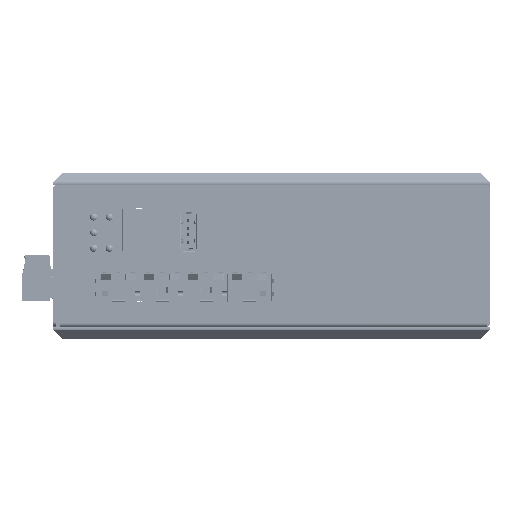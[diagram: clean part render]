
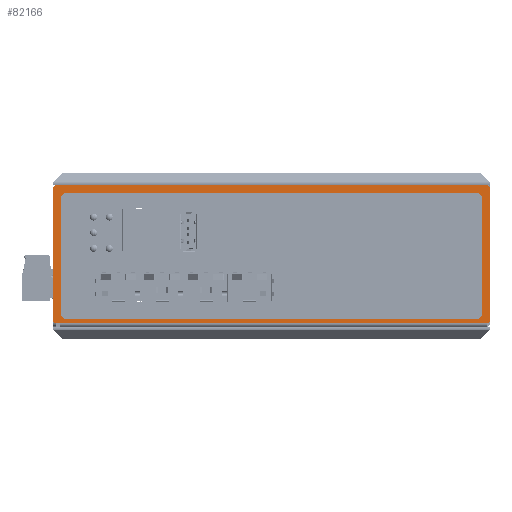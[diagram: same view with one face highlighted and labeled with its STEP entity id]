
A CAD part, front view. The second image highlights one B-rep face of the part: STEP entity #82166.
In plain terms, the highlighted planar face has unit normal (0, -1, 0).
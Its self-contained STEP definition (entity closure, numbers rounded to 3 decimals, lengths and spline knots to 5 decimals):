
#1715=LINE('',#118203,#9998);
#1716=LINE('',#118209,#9999);
#1717=LINE('',#118213,#10000);
#1718=LINE('',#118217,#10001);
#1719=LINE('',#118219,#10002);
#1720=LINE('',#118221,#10003);
#1721=LINE('',#118225,#10004);
#1722=LINE('',#118229,#10005);
#1723=LINE('',#118233,#10006);
#1724=LINE('',#118237,#10007);
#9998=VECTOR('',#95320,1.);
#9999=VECTOR('',#95327,1.);
#10000=VECTOR('',#95330,1.);
#10001=VECTOR('',#95333,1.);
#10002=VECTOR('',#95334,1.);
#10003=VECTOR('',#95335,1.);
#10004=VECTOR('',#95338,1.);
#10005=VECTOR('',#95341,1.);
#10006=VECTOR('',#95344,1.);
#10007=VECTOR('',#95347,1.);
#18544=PLANE('',#87360);
#22138=ORIENTED_EDGE('',*,*,#45606,.T.);
#22139=ORIENTED_EDGE('',*,*,#45605,.T.);
#22140=ORIENTED_EDGE('',*,*,#45607,.T.);
#22141=ORIENTED_EDGE('',*,*,#45608,.T.);
#22142=ORIENTED_EDGE('',*,*,#45609,.T.);
#22143=ORIENTED_EDGE('',*,*,#45610,.T.);
#22144=ORIENTED_EDGE('',*,*,#45611,.T.);
#22145=ORIENTED_EDGE('',*,*,#45612,.F.);
#22146=ORIENTED_EDGE('',*,*,#45613,.F.);
#22147=ORIENTED_EDGE('',*,*,#45614,.F.);
#22148=ORIENTED_EDGE('',*,*,#45615,.T.);
#22149=ORIENTED_EDGE('',*,*,#45616,.T.);
#22150=ORIENTED_EDGE('',*,*,#45617,.T.);
#22151=ORIENTED_EDGE('',*,*,#45618,.T.);
#22152=ORIENTED_EDGE('',*,*,#45619,.T.);
#22153=ORIENTED_EDGE('',*,*,#45620,.T.);
#22154=ORIENTED_EDGE('',*,*,#45621,.T.);
#22155=ORIENTED_EDGE('',*,*,#45622,.T.);
#45605=EDGE_CURVE('',#57608,#57609,#1715,.T.);
#45606=EDGE_CURVE('',#57610,#57608,#65657,.T.);
#45607=EDGE_CURVE('',#57609,#57611,#65658,.T.);
#45608=EDGE_CURVE('',#57611,#57612,#1716,.T.);
#45609=EDGE_CURVE('',#57612,#57613,#65659,.T.);
#45610=EDGE_CURVE('',#57613,#57614,#1717,.T.);
#45611=EDGE_CURVE('',#57614,#57615,#65660,.T.);
#45612=EDGE_CURVE('',#57616,#57615,#1718,.T.);
#45613=EDGE_CURVE('',#57617,#57616,#1719,.T.);
#45614=EDGE_CURVE('',#57610,#57617,#1720,.T.);
#45615=EDGE_CURVE('',#57618,#57619,#65661,.T.);
#45616=EDGE_CURVE('',#57619,#57620,#1721,.T.);
#45617=EDGE_CURVE('',#57620,#57621,#65662,.T.);
#45618=EDGE_CURVE('',#57621,#57622,#1722,.T.);
#45619=EDGE_CURVE('',#57622,#57623,#65663,.T.);
#45620=EDGE_CURVE('',#57623,#57624,#1723,.T.);
#45621=EDGE_CURVE('',#57624,#57625,#65664,.T.);
#45622=EDGE_CURVE('',#57625,#57618,#1724,.T.);
#57608=VERTEX_POINT('',#118200);
#57609=VERTEX_POINT('',#118202);
#57610=VERTEX_POINT('',#118206);
#57611=VERTEX_POINT('',#118208);
#57612=VERTEX_POINT('',#118210);
#57613=VERTEX_POINT('',#118212);
#57614=VERTEX_POINT('',#118214);
#57615=VERTEX_POINT('',#118216);
#57616=VERTEX_POINT('',#118218);
#57617=VERTEX_POINT('',#118220);
#57618=VERTEX_POINT('',#118223);
#57619=VERTEX_POINT('',#118224);
#57620=VERTEX_POINT('',#118226);
#57621=VERTEX_POINT('',#118228);
#57622=VERTEX_POINT('',#118230);
#57623=VERTEX_POINT('',#118232);
#57624=VERTEX_POINT('',#118234);
#57625=VERTEX_POINT('',#118236);
#65657=CIRCLE('',#87361,0.001);
#65658=CIRCLE('',#87362,0.001);
#65659=CIRCLE('',#87363,0.001);
#65660=CIRCLE('',#87364,0.001);
#65661=CIRCLE('',#87365,0.002);
#65662=CIRCLE('',#87366,0.002);
#65663=CIRCLE('',#87367,0.002);
#65664=CIRCLE('',#87368,0.002);
#68585=EDGE_LOOP('',(#22138,#22139,#22140,#22141,#22142,#22143,#22144,#22145,
#22146,#22147));
#68586=EDGE_LOOP('',(#22148,#22149,#22150,#22151,#22152,#22153,#22154,#22155));
#74693=FACE_BOUND('',#68585,.T.);
#74694=FACE_BOUND('',#68586,.T.);
#82166=ADVANCED_FACE('',(#74693,#74694),#18544,.T.);
#87360=AXIS2_PLACEMENT_3D('',#118204,#95321,#95322);
#87361=AXIS2_PLACEMENT_3D('',#118205,#95323,#95324);
#87362=AXIS2_PLACEMENT_3D('',#118207,#95325,#95326);
#87363=AXIS2_PLACEMENT_3D('',#118211,#95328,#95329);
#87364=AXIS2_PLACEMENT_3D('',#118215,#95331,#95332);
#87365=AXIS2_PLACEMENT_3D('',#118222,#95336,#95337);
#87366=AXIS2_PLACEMENT_3D('',#118227,#95339,#95340);
#87367=AXIS2_PLACEMENT_3D('',#118231,#95342,#95343);
#87368=AXIS2_PLACEMENT_3D('',#118235,#95345,#95346);
#95320=DIRECTION('',(0.,0.,1.));
#95321=DIRECTION('',(0.,-1.,0.));
#95322=DIRECTION('',(1.,0.,0.));
#95323=DIRECTION('',(0.,-1.,0.));
#95324=DIRECTION('',(0.,0.,-1.));
#95325=DIRECTION('',(0.,-1.,0.));
#95326=DIRECTION('',(1.,0.,0.));
#95327=DIRECTION('',(-1.,0.,0.));
#95328=DIRECTION('',(0.,-1.,0.));
#95329=DIRECTION('',(0.,0.,1.));
#95330=DIRECTION('',(0.,0.,-1.));
#95331=DIRECTION('',(0.,-1.,0.));
#95332=DIRECTION('',(-1.,0.,0.));
#95333=DIRECTION('',(-1.,0.,0.));
#95334=DIRECTION('',(-1.,0.,0.));
#95335=DIRECTION('',(-1.,0.,0.));
#95336=DIRECTION('',(0.,1.,0.));
#95337=DIRECTION('',(-1.,0.,0.));
#95338=DIRECTION('',(1.,0.,0.));
#95339=DIRECTION('',(0.,1.,0.));
#95340=DIRECTION('',(0.,0.,1.));
#95341=DIRECTION('',(0.,0.,-1.));
#95342=DIRECTION('',(0.,1.,0.));
#95343=DIRECTION('',(1.,0.,0.));
#95344=DIRECTION('',(-1.,0.,0.));
#95345=DIRECTION('',(0.,1.,0.));
#95346=DIRECTION('',(0.,0.,-1.));
#95347=DIRECTION('',(0.,0.,1.));
#118200=CARTESIAN_POINT('',(0.0705,-0.049,0.0011));
#118202=CARTESIAN_POINT('',(0.0705,-0.049,0.044));
#118203=CARTESIAN_POINT('',(0.0705,-0.049,0.0011));
#118204=CARTESIAN_POINT('',(0.,-0.049,0.));
#118205=CARTESIAN_POINT('',(0.0695,-0.049,0.0011));
#118206=CARTESIAN_POINT('',(0.0695,-0.049,0.0001));
#118207=CARTESIAN_POINT('',(0.0695,-0.049,0.044));
#118208=CARTESIAN_POINT('',(0.0695,-0.049,0.045));
#118209=CARTESIAN_POINT('',(0.0695,-0.049,0.045));
#118210=CARTESIAN_POINT('',(-0.0705,-0.049,0.045));
#118211=CARTESIAN_POINT('',(-0.0705,-0.049,0.044));
#118212=CARTESIAN_POINT('',(-0.0715,-0.049,0.044));
#118213=CARTESIAN_POINT('',(-0.0715,-0.049,0.044));
#118214=CARTESIAN_POINT('',(-0.0715,-0.049,0.0011));
#118215=CARTESIAN_POINT('',(-0.0705,-0.049,0.0011));
#118216=CARTESIAN_POINT('',(-0.0705,-0.049,0.0001));
#118217=CARTESIAN_POINT('',(-0.0694,-0.049,0.0001));
#118218=CARTESIAN_POINT('',(-0.0694,-0.049,0.0001));
#118219=CARTESIAN_POINT('',(0.0694,-0.049,0.0001));
#118220=CARTESIAN_POINT('',(0.0694,-0.049,0.0001));
#118221=CARTESIAN_POINT('',(0.0695,-0.049,0.0001));
#118222=CARTESIAN_POINT('',(-0.067,-0.049,0.0405));
#118223=CARTESIAN_POINT('',(-0.069,-0.049,0.0405));
#118224=CARTESIAN_POINT('',(-0.067,-0.049,0.0425));
#118225=CARTESIAN_POINT('',(-0.067,-0.049,0.0425));
#118226=CARTESIAN_POINT('',(0.066,-0.049,0.0425));
#118227=CARTESIAN_POINT('',(0.066,-0.049,0.0405));
#118228=CARTESIAN_POINT('',(0.068,-0.049,0.0405));
#118229=CARTESIAN_POINT('',(0.068,-0.049,0.0405));
#118230=CARTESIAN_POINT('',(0.068,-0.049,0.0035));
#118231=CARTESIAN_POINT('',(0.066,-0.049,0.0035));
#118232=CARTESIAN_POINT('',(0.066,-0.049,0.0015));
#118233=CARTESIAN_POINT('',(0.066,-0.049,0.0015));
#118234=CARTESIAN_POINT('',(-0.067,-0.049,0.0015));
#118235=CARTESIAN_POINT('',(-0.067,-0.049,0.0035));
#118236=CARTESIAN_POINT('',(-0.069,-0.049,0.0035));
#118237=CARTESIAN_POINT('',(-0.069,-0.049,0.0035));
